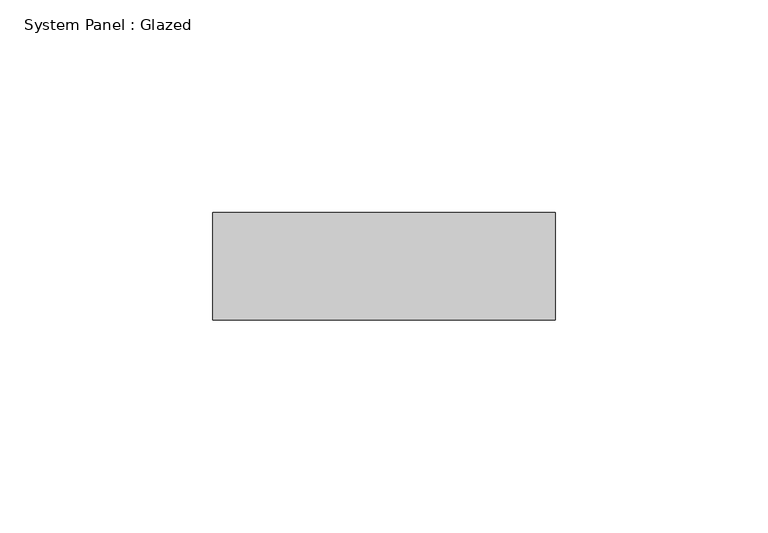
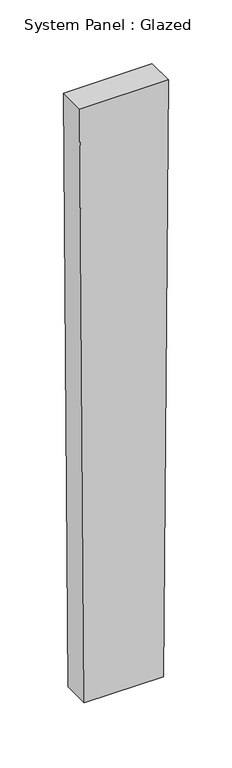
"""IFC4 building model written with IfcOpenShell, lengths in millimetres: plate geometry, System Panel : Glazed."""

from ifc_helpers import new_model, si_unit, frame, origin, place, context, project, spatial, polyline, outline, extrude, source, transform, mapped, element, save


def system_panel_glazed_aec5c574(model_context):
    return source(origin(), model_context, "Body", "SweptSolid", [
        extrude(outline(polyline([(0.0, -36.1002743), (0.0, 36.1002743), (571.4831587, 40.3483572), (571.4831587, -40.3483572), (0.0, -36.1002743)])), frame((0.0, -44.45, 0.0), z_axis=(0.0, 1.0, 0.0), x_axis=(0.0, 0.0, 1.0)), (0.0, 0.0, 1.0), 25.4),
    ])


if __name__ == "__main__":
    model = new_model("IFC4")
    model_context = context("Model", 3, world=origin())
    ifc_project = project(units=[si_unit("LENGTHUNIT", "METRE", prefix="MILLI")], contexts=[model_context])
    site = spatial("IfcSite", under=ifc_project)
    building = spatial("IfcBuilding", under=site)
    placement = place(None, origin())
    system_panel_glazed_shape = system_panel_glazed_aec5c574(model_context)
    element("IfcPlate", 1, ObjectType="System Panel : Glazed", at=placement, inside=building, context=model_context, shape_type="MappedRepresentation", body=[
        mapped(system_panel_glazed_shape, transform((0.0, 0.0, 0.0), x_axis=(1.0, 0.0, 0.0), y_axis=(0.0, 1.0, 0.0), z_axis=(0.0, 0.0, 1.0))),
    ])
    save(model, "model.ifc")
